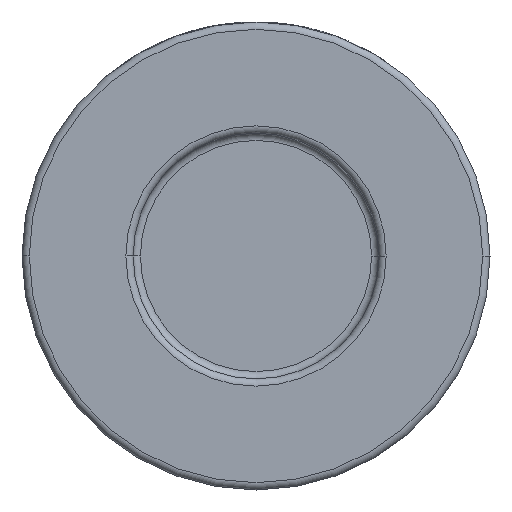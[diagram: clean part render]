
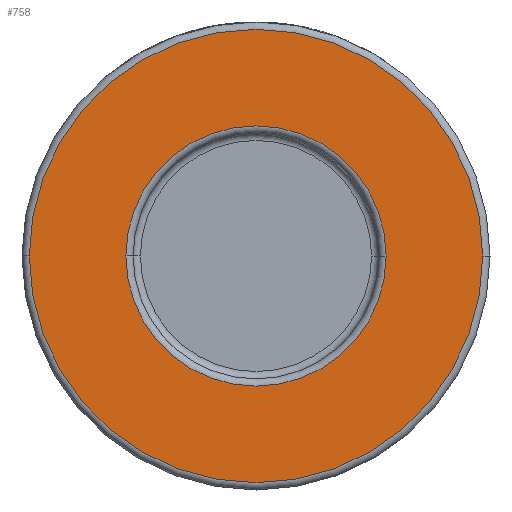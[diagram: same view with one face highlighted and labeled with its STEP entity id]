
A CAD part, front view. The second image highlights one B-rep face of the part: STEP entity #758.
In plain terms, the highlighted planar face has unit normal (0, -1, 0).
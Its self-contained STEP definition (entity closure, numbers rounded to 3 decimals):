
#7 = CARTESIAN_POINT ( 'NONE',  ( 31., -22., 0. ) ) ;
#92 = DIRECTION ( 'NONE',  ( 1., 0., 0. ) ) ;
#210 = CIRCLE ( 'NONE', #2773, 31. ) ;
#454 = CARTESIAN_POINT ( 'NONE',  ( 0., -22., 0. ) ) ;
#641 = CIRCLE ( 'NONE', #1669, 17.8 ) ;
#733 = DIRECTION ( 'NONE',  ( 1., 0., 0. ) ) ;
#758 = ADVANCED_FACE ( 'NONE', ( #3875, #3918 ), #1475, .T. ) ;
#853 = DIRECTION ( 'NONE',  ( 0., -1., 0. ) ) ;
#1022 = CIRCLE ( 'NONE', #1615, 31. ) ;
#1087 = CIRCLE ( 'NONE', #3644, 17.8 ) ;
#1146 = CARTESIAN_POINT ( 'NONE',  ( 17.8, -22., 0. ) ) ;
#1305 = EDGE_CURVE ( 'NONE', #3105, #3400, #641, .T. ) ;
#1444 = DIRECTION ( 'NONE',  ( 0., 1., 0. ) ) ;
#1475 = PLANE ( 'NONE',  #2452 ) ;
#1562 = CARTESIAN_POINT ( 'NONE',  ( 0., -22., 0. ) ) ;
#1615 = AXIS2_PLACEMENT_3D ( 'NONE', #1562, #853, #92 ) ;
#1669 = AXIS2_PLACEMENT_3D ( 'NONE', #3537, #1444, #4508 ) ;
#1698 = EDGE_LOOP ( 'NONE', ( #3098, #2004 ) ) ;
#1846 = EDGE_LOOP ( 'NONE', ( #3946, #2859 ) ) ;
#2004 = ORIENTED_EDGE ( 'NONE', *, *, #3094, .T. ) ;
#2171 = CARTESIAN_POINT ( 'NONE',  ( -17.8, -22., 0. ) ) ;
#2297 = CARTESIAN_POINT ( 'NONE',  ( -31., -22., 0. ) ) ;
#2452 = AXIS2_PLACEMENT_3D ( 'NONE', #4282, #2833, #733 ) ;
#2614 = DIRECTION ( 'NONE',  ( 0., -1., 0. ) ) ;
#2773 = AXIS2_PLACEMENT_3D ( 'NONE', #4065, #2614, #3274 ) ;
#2833 = DIRECTION ( 'NONE',  ( 0., -1., 0. ) ) ;
#2859 = ORIENTED_EDGE ( 'NONE', *, *, #3232, .T. ) ;
#3094 = EDGE_CURVE ( 'NONE', #3400, #3105, #1087, .T. ) ;
#3098 = ORIENTED_EDGE ( 'NONE', *, *, #1305, .T. ) ;
#3105 = VERTEX_POINT ( 'NONE', #1146 ) ;
#3232 = EDGE_CURVE ( 'NONE', #3988, #4490, #210, .T. ) ;
#3274 = DIRECTION ( 'NONE',  ( 1., 0., 0. ) ) ;
#3400 = VERTEX_POINT ( 'NONE', #2171 ) ;
#3537 = CARTESIAN_POINT ( 'NONE',  ( 0., -22., 0. ) ) ;
#3599 = DIRECTION ( 'NONE',  ( 1., 0., 0. ) ) ;
#3644 = AXIS2_PLACEMENT_3D ( 'NONE', #454, #4250, #3599 ) ;
#3875 = FACE_BOUND ( 'NONE', #1698, .T. ) ;
#3918 = FACE_OUTER_BOUND ( 'NONE', #1846, .T. ) ;
#3946 = ORIENTED_EDGE ( 'NONE', *, *, #4534, .T. ) ;
#3988 = VERTEX_POINT ( 'NONE', #2297 ) ;
#4065 = CARTESIAN_POINT ( 'NONE',  ( 0., -22., 0. ) ) ;
#4250 = DIRECTION ( 'NONE',  ( 0., 1., 0. ) ) ;
#4282 = CARTESIAN_POINT ( 'NONE',  ( 32., -22., 0. ) ) ;
#4490 = VERTEX_POINT ( 'NONE', #7 ) ;
#4508 = DIRECTION ( 'NONE',  ( 1., 0., 0. ) ) ;
#4534 = EDGE_CURVE ( 'NONE', #4490, #3988, #1022, .T. ) ;
